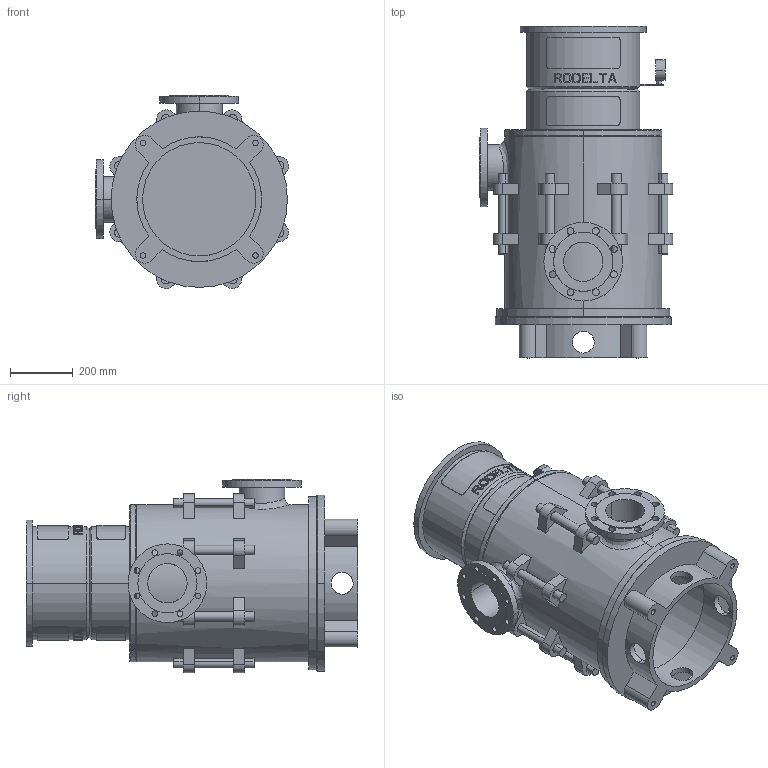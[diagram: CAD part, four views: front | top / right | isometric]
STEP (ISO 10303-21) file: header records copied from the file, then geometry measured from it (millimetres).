
FILE_DESCRIPTION((''),'2;1');
FILE_NAME('LS5_2TR_0GR_TOT_30KW','2023-08-08T',('Lyritlocal'),(''),'PRO/ENGINEER BY PARAMETRIC TECHNOLOGY CORPORATION, 2016360','PRO/ENGINEER BY PARAMETRIC TECHNOLOGY CORPORATION, 2016360','');
FILE_SCHEMA(('CONFIG_CONTROL_DESIGN'));
Length unit declared in the file: millimetre
Products named in the file (1): LS5_2TR_0GR_TOT_30KW
Bounding box: 614.04 x 1054 x 614.04 mm (x, y, z)
Volume: 32300253.5 mm3; surface area: 4434262 mm2
Topology: 3 solids, 7 shells, 672 faces, 1749 edges, 1158 vertices
Faces by surface type: plane 414, cylinder 242, cone 12, bspline 4
Entity records: 21953 total; most frequent: CARTESIAN_POINT 5501, ORIENTED_EDGE 3482, DIRECTION 3271, EDGE_CURVE 1749, AXIS2_PLACEMENT_3D 1241, VERTEX_POINT 1158, EDGE_LOOP 807, VECTOR 789
